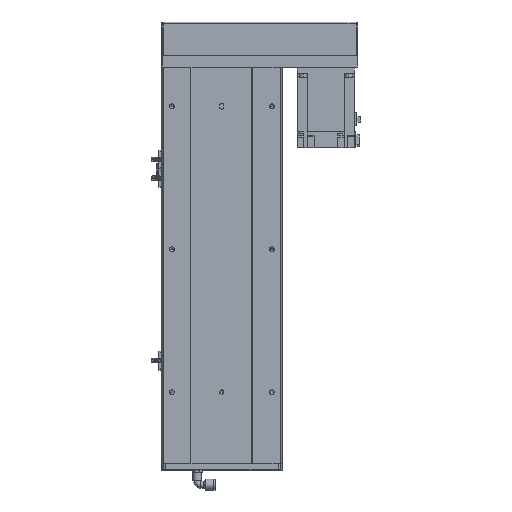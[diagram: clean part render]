
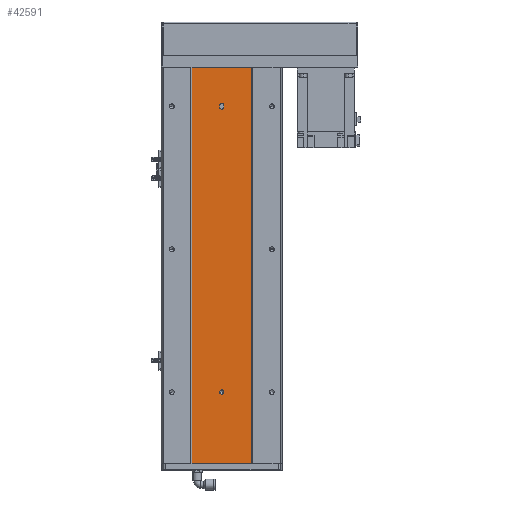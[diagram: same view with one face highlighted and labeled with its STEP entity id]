
A CAD part, top view. The second image highlights one B-rep face of the part: STEP entity #42591.
In plain terms, the highlighted planar face has unit normal (0, 0, 1).
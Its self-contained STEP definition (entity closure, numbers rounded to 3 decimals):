
#358 = DIRECTION ( 'NONE',  ( 1., 0., 0. ) ) ;
#1344 = FACE_BOUND ( 'NONE', #44062, .T. ) ;
#2166 = ORIENTED_EDGE ( 'NONE', *, *, #38507, .F. ) ;
#2439 = AXIS2_PLACEMENT_3D ( 'NONE', #12607, #25369, #358 ) ;
#2514 = CIRCLE ( 'NONE', #2439, 3. ) ;
#2902 = CARTESIAN_POINT ( 'NONE',  ( 3., -54., 40.499 ) ) ;
#3615 = VERTEX_POINT ( 'NONE', #39246 ) ;
#4089 = CARTESIAN_POINT ( 'NONE',  ( -42., -555., 40.499 ) ) ;
#4366 = ORIENTED_EDGE ( 'NONE', *, *, #37266, .F. ) ;
#4673 = LINE ( 'NONE', #35024, #45976 ) ;
#5516 = DIRECTION ( 'NONE',  ( 1., 0., 0. ) ) ;
#6224 = VECTOR ( 'NONE', #50713, 1000. ) ;
#7372 = DIRECTION ( 'NONE',  ( 0., 0., 1. ) ) ;
#7605 = CARTESIAN_POINT ( 'NONE',  ( 3., -455., 40.499 ) ) ;
#7983 = EDGE_CURVE ( 'NONE', #37998, #12580, #27942, .T. ) ;
#8320 = FACE_OUTER_BOUND ( 'NONE', #10098, .T. ) ;
#9685 = DIRECTION ( 'NONE',  ( 1., 0., 0. ) ) ;
#9757 = ORIENTED_EDGE ( 'NONE', *, *, #47792, .F. ) ;
#10059 = LINE ( 'NONE', #50533, #6224 ) ;
#10098 = EDGE_LOOP ( 'NONE', ( #9757, #28149, #21838, #27139 ) ) ;
#10488 = DIRECTION ( 'NONE',  ( 0., -1., 0. ) ) ;
#10993 = LINE ( 'NONE', #30340, #17956 ) ;
#11792 = CARTESIAN_POINT ( 'NONE',  ( 0., -54., 40.499 ) ) ;
#12226 = DIRECTION ( 'NONE',  ( 1., 0., 0. ) ) ;
#12580 = VERTEX_POINT ( 'NONE', #18505 ) ;
#12603 = AXIS2_PLACEMENT_3D ( 'NONE', #18311, #31120, #46755 ) ;
#12607 = CARTESIAN_POINT ( 'NONE',  ( 0., -455., 40.499 ) ) ;
#12926 = PLANE ( 'NONE',  #22680 ) ;
#13394 = EDGE_CURVE ( 'NONE', #37662, #37439, #26532, .T. ) ;
#13709 = VERTEX_POINT ( 'NONE', #15045 ) ;
#15045 = CARTESIAN_POINT ( 'NONE',  ( -42., 0., 40.499 ) ) ;
#15282 = VERTEX_POINT ( 'NONE', #46467 ) ;
#15720 = VECTOR ( 'NONE', #5516, 1000. ) ;
#17157 = VERTEX_POINT ( 'NONE', #24291 ) ;
#17956 = VECTOR ( 'NONE', #46676, 1000. ) ;
#18311 = CARTESIAN_POINT ( 'NONE',  ( 0., -56., 40.499 ) ) ;
#18505 = CARTESIAN_POINT ( 'NONE',  ( -3., -455., 40.499 ) ) ;
#18667 = EDGE_CURVE ( 'NONE', #25907, #17157, #48312, .T. ) ;
#18881 = EDGE_CURVE ( 'NONE', #12580, #37998, #2514, .T. ) ;
#19189 = EDGE_CURVE ( 'NONE', #48678, #17157, #50819, .T. ) ;
#19766 = DIRECTION ( 'NONE',  ( 1., 0., 0. ) ) ;
#20823 = ORIENTED_EDGE ( 'NONE', *, *, #18667, .F. ) ;
#21467 = CARTESIAN_POINT ( 'NONE',  ( -42., -555., 40.499 ) ) ;
#21838 = ORIENTED_EDGE ( 'NONE', *, *, #13394, .T. ) ;
#22352 = CARTESIAN_POINT ( 'NONE',  ( 3., -54., 40.499 ) ) ;
#22680 = AXIS2_PLACEMENT_3D ( 'NONE', #4089, #41221, #33201 ) ;
#24291 = CARTESIAN_POINT ( 'NONE',  ( 3., -56., 40.499 ) ) ;
#25369 = DIRECTION ( 'NONE',  ( 0., 0., 1. ) ) ;
#25444 = CARTESIAN_POINT ( 'NONE',  ( 0., -455., 40.499 ) ) ;
#25563 = CARTESIAN_POINT ( 'NONE',  ( -3., -56., 40.499 ) ) ;
#25629 = DIRECTION ( 'NONE',  ( 0., 0., 1. ) ) ;
#25907 = VERTEX_POINT ( 'NONE', #25563 ) ;
#26532 = LINE ( 'NONE', #30008, #15720 ) ;
#27139 = ORIENTED_EDGE ( 'NONE', *, *, #47943, .T. ) ;
#27545 = CARTESIAN_POINT ( 'NONE',  ( 42., -555., 40.499 ) ) ;
#27942 = CIRCLE ( 'NONE', #33763, 3. ) ;
#28032 = FACE_BOUND ( 'NONE', #39812, .T. ) ;
#28149 = ORIENTED_EDGE ( 'NONE', *, *, #35626, .F. ) ;
#30008 = CARTESIAN_POINT ( 'NONE',  ( -42., -555., 40.499 ) ) ;
#30340 = CARTESIAN_POINT ( 'NONE',  ( 42., -555., 40.499 ) ) ;
#31120 = DIRECTION ( 'NONE',  ( 0., 0., 1. ) ) ;
#33065 = LINE ( 'NONE', #21467, #40140 ) ;
#33201 = DIRECTION ( 'NONE',  ( 1., 0., 0. ) ) ;
#33763 = AXIS2_PLACEMENT_3D ( 'NONE', #25444, #25629, #9685 ) ;
#35024 = CARTESIAN_POINT ( 'NONE',  ( -42., 0., 40.499 ) ) ;
#35434 = DIRECTION ( 'NONE',  ( 0., 1., 0. ) ) ;
#35626 = EDGE_CURVE ( 'NONE', #37662, #13709, #33065, .T. ) ;
#36892 = ORIENTED_EDGE ( 'NONE', *, *, #18881, .F. ) ;
#37266 = EDGE_CURVE ( 'NONE', #3615, #25907, #10059, .T. ) ;
#37439 = VERTEX_POINT ( 'NONE', #27545 ) ;
#37662 = VERTEX_POINT ( 'NONE', #42122 ) ;
#37998 = VERTEX_POINT ( 'NONE', #7605 ) ;
#38507 = EDGE_CURVE ( 'NONE', #48678, #3615, #45534, .T. ) ;
#39246 = CARTESIAN_POINT ( 'NONE',  ( -3., -54., 40.499 ) ) ;
#39812 = EDGE_LOOP ( 'NONE', ( #2166, #46585, #20823, #4366 ) ) ;
#40140 = VECTOR ( 'NONE', #35434, 1000. ) ;
#41221 = DIRECTION ( 'NONE',  ( 0., 0., 1. ) ) ;
#41274 = VECTOR ( 'NONE', #10488, 1000. ) ;
#42122 = CARTESIAN_POINT ( 'NONE',  ( -42., -555., 40.499 ) ) ;
#42591 = ADVANCED_FACE ( 'NONE', ( #1344, #28032, #8320 ), #12926, .T. ) ;
#44062 = EDGE_LOOP ( 'NONE', ( #46884, #36892 ) ) ;
#45534 = CIRCLE ( 'NONE', #48037, 3. ) ;
#45976 = VECTOR ( 'NONE', #12226, 1000. ) ;
#46467 = CARTESIAN_POINT ( 'NONE',  ( 42., 0., 40.499 ) ) ;
#46585 = ORIENTED_EDGE ( 'NONE', *, *, #19189, .T. ) ;
#46676 = DIRECTION ( 'NONE',  ( 0., 1., 0. ) ) ;
#46755 = DIRECTION ( 'NONE',  ( 1., 0., 0. ) ) ;
#46884 = ORIENTED_EDGE ( 'NONE', *, *, #7983, .F. ) ;
#47792 = EDGE_CURVE ( 'NONE', #13709, #15282, #4673, .T. ) ;
#47943 = EDGE_CURVE ( 'NONE', #37439, #15282, #10993, .T. ) ;
#48037 = AXIS2_PLACEMENT_3D ( 'NONE', #11792, #7372, #19766 ) ;
#48312 = CIRCLE ( 'NONE', #12603, 3. ) ;
#48678 = VERTEX_POINT ( 'NONE', #2902 ) ;
#50533 = CARTESIAN_POINT ( 'NONE',  ( -3., -54., 40.499 ) ) ;
#50713 = DIRECTION ( 'NONE',  ( 0., -1., 0. ) ) ;
#50819 = LINE ( 'NONE', #22352, #41274 ) ;
